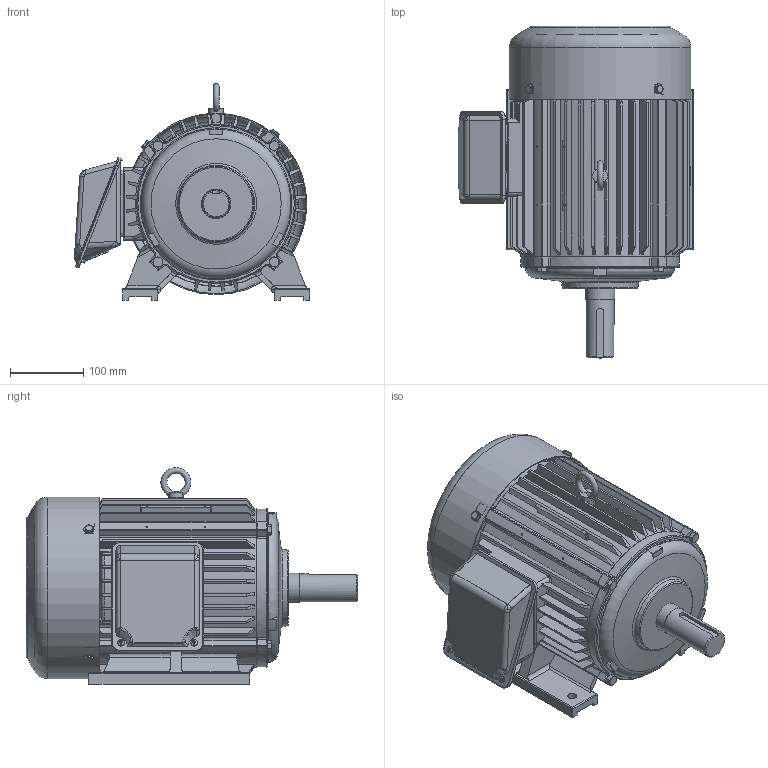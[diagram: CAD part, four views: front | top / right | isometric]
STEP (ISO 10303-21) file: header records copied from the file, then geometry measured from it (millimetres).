
FILE_DESCRIPTION(/* description */ ('Unknown'),/* implementation_level */ '2;1');
FILE_NAME(/* name */ '1-SMA-31983_외형도(205DIA)',/* time_stamp */ '2026-07-24T08:17:46+09:00',/* author */ ('Unknown'),/* organization */ ('Unknown'),/* preprocessor_version */ 'ST-DEVELOPER v16',/* originating_system */ 'DEX',/* authorisation */ $);
FILE_SCHEMA (('AUTOMOTIVE_DESIGN {1 0 10303 214 3 1 1}'));
Length unit declared in the file: millimetre
Products named in the file (19): 1-SMA-31983_寇屈档(205DI; 2-SMA-30807_FRAME(205DIA); 3-SMA-30799_擅粽塭鰍(205D; 4-SMA-30800_菴粽塭鰍(205D; 5-SMA-30808_SHAFT(205DIA); 6-SMA-31244_FAN(205DIA); 7-SMA-30803_FAN COVER(205DIA); 幫陝獐お M8x1.25x; 6308ZZ; 5.5~15kW(7.5~20HPO)_攪嘐割 夢蝶(205~260; 8-SMA-33050_T-BOX(鼻)(205~260DIA); 9-SMA-33051_T-BOX(ж)(205~260DIA); 褊濠 菅斬 該葬 獐お M5x; T-BOX ÀÓ½Ã ÄÉÀÌºí±×·£µå(205~ë“œ(205~260DIA); 6306ZZ; 幫陝 M6x1x1010L; T-BOX ｾﾐﾆﾇ(205~260DIA) V; 蹴辨 S2; I獐お M10x1.5x18
Assembly tree (29 placements, depth 3):
  1-SMA-31983_寇屈档(205DI
    2-SMA-30807_FRAME(205DIA)
    3-SMA-30799_擅粽塭鰍(205D
    4-SMA-30800_菴粽塭鰍(205D
    5-SMA-30808_SHAFT(205DIA)
    6-SMA-31244_FAN(205DIA)
    7-SMA-30803_FAN COVER(205DIA)
    幫陝獐お M8x1.25x  x8
    6308ZZ
    5.5~15kW(7.5~20HPO)_攪嘐割 夢蝶(205~260
      8-SMA-33050_T-BOX(鼻)(205~260DIA)
      9-SMA-33051_T-BOX(ж)(205~260DIA)
      褊濠 菅斬 該葬 獐お M5x  x2
      T-BOX ÀÓ½Ã ÄÉÀÌºí±×·£µå(205~ë“œ(205~260DIA)
    6306ZZ
    幫陝 M6x1x1010L  x4
    T-BOX ｾﾐﾆﾇ(205~260DIA) V
    蹴辨 S2
    I獐お M10x1.5x18
Bounding box: 321.99 x 454 x 296.5 mm (x, y, z)
Volume: 3639813.8 mm3; surface area: 1388560.2 mm2
Topology: 50 solids, 50 shells, 1996 faces, 5101 edges, 3192 vertices
Faces by surface type: plane 635, cylinder 588, cone 360, torus 219, bspline 150, sphere 44
Full cylindrical faces by diameter (mm): 2 x2, 2.2 x4, 4.134 x2, 4.917 x6, 5 x2, 6 x6, 6.6 x4, 6.647 x16, 7 x2, 8 x16, 8.376 x1, 9 x2, 10 x10, 12 x4, 14 x4, 20 x1, 25 x1, 25.3 x1, 29.8 x1, 30 x2, 30.6 x1, 35 x2, 38 x1, 39.8 x1, 40 x4, 40.1 x1, 40.6 x1, 42 x2, 42.4 x2, 44 x3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
Entity records: 78603 total; most frequent: CARTESIAN_POINT 31418, ORIENTED_EDGE 8606, DIRECTION 8324, EDGE_CURVE 4303, AXIS2_PLACEMENT_3D 3414, VERTEX_POINT 2833, FACE_BOUND 2158, EDGE_LOOP 2129
